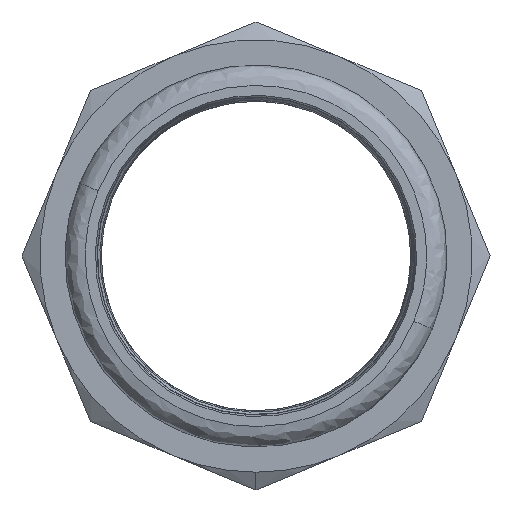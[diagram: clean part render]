
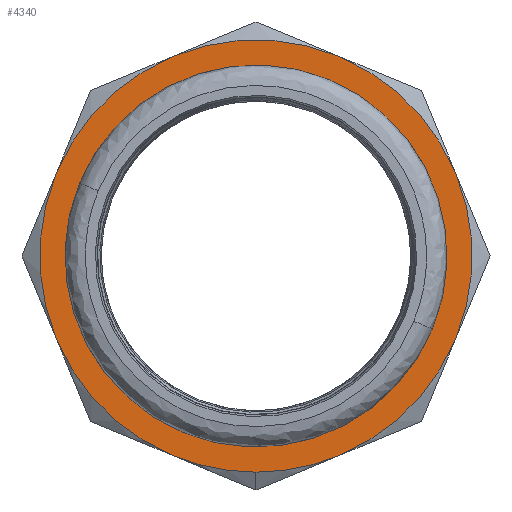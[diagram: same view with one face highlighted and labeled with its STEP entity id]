
A CAD part, left-side view. The second image highlights one B-rep face of the part: STEP entity #4340.
In plain terms, the highlighted planar face has unit normal (-1, 0, 0) as drawn and (0, 1, 0) by its records, which use the part's own axes.
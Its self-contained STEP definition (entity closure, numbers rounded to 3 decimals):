
#30 = CARTESIAN_POINT ( 'NONE',  ( 0., 23., 0. ) ) ;
#55 = CIRCLE ( 'NONE', #118, 37. ) ;
#99 = CIRCLE ( 'NONE', #185, 29.15 ) ;
#114 = DIRECTION ( 'NONE',  ( 0., 1., 0. ) ) ;
#118 = AXIS2_PLACEMENT_3D ( 'NONE', #1379, #3871, #2622 ) ;
#139 = ORIENTED_EDGE ( 'NONE', *, *, #4843, .T. ) ;
#153 = AXIS2_PLACEMENT_3D ( 'NONE', #1722, #114, #3423 ) ;
#185 = AXIS2_PLACEMENT_3D ( 'NONE', #4739, #2690, #2727 ) ;
#232 = DIRECTION ( 'NONE',  ( 0., 1., 0. ) ) ;
#259 = VERTEX_POINT ( 'NONE', #3439 ) ;
#303 = EDGE_CURVE ( 'NONE', #1239, #2758, #1165, .T. ) ;
#338 = FACE_BOUND ( 'NONE', #4903, .T. ) ;
#425 = ORIENTED_EDGE ( 'NONE', *, *, #4000, .T. ) ;
#527 = DIRECTION ( 'NONE',  ( 0., 0., -1. ) ) ;
#642 = CARTESIAN_POINT ( 'NONE',  ( -34.184, 23., -14.159 ) ) ;
#648 = EDGE_CURVE ( 'NONE', #3588, #5007, #3200, .T. ) ;
#679 = CIRCLE ( 'NONE', #969, 37. ) ;
#729 = CARTESIAN_POINT ( 'NONE',  ( 34.184, 23., -14.159 ) ) ;
#837 = CARTESIAN_POINT ( 'NONE',  ( -14.159, 23., -34.184 ) ) ;
#857 = DIRECTION ( 'NONE',  ( 0., 1., 0. ) ) ;
#859 = ORIENTED_EDGE ( 'NONE', *, *, #648, .T. ) ;
#927 = CARTESIAN_POINT ( 'NONE',  ( 0., 23., 0. ) ) ;
#948 = AXIS2_PLACEMENT_3D ( 'NONE', #30, #857, #3725 ) ;
#969 = AXIS2_PLACEMENT_3D ( 'NONE', #3499, #4285, #3118 ) ;
#1043 = EDGE_CURVE ( 'NONE', #2758, #2419, #55, .T. ) ;
#1093 = AXIS2_PLACEMENT_3D ( 'NONE', #927, #1273, #2947 ) ;
#1165 = CIRCLE ( 'NONE', #4384, 37. ) ;
#1181 = DIRECTION ( 'NONE',  ( 1., 0., 0. ) ) ;
#1189 = ORIENTED_EDGE ( 'NONE', *, *, #2739, .T. ) ;
#1220 = ORIENTED_EDGE ( 'NONE', *, *, #303, .T. ) ;
#1239 = VERTEX_POINT ( 'NONE', #837 ) ;
#1243 = DIRECTION ( 'NONE',  ( 0., 1., 0. ) ) ;
#1273 = DIRECTION ( 'NONE',  ( 0., 1., 0. ) ) ;
#1312 = CARTESIAN_POINT ( 'NONE',  ( 0., 23., -29.15 ) ) ;
#1367 = EDGE_CURVE ( 'NONE', #2867, #3588, #3523, .T. ) ;
#1379 = CARTESIAN_POINT ( 'NONE',  ( 0., 23., 0. ) ) ;
#1406 = ORIENTED_EDGE ( 'NONE', *, *, #1367, .T. ) ;
#1443 = DIRECTION ( 'NONE',  ( 0., 0., -1. ) ) ;
#1444 = PLANE ( 'NONE',  #4185 ) ;
#1507 = VERTEX_POINT ( 'NONE', #3047 ) ;
#1651 = CARTESIAN_POINT ( 'NONE',  ( 0., 23., 0. ) ) ;
#1722 = CARTESIAN_POINT ( 'NONE',  ( 0., 23., 0. ) ) ;
#1734 = CARTESIAN_POINT ( 'NONE',  ( 14.159, 23., -34.184 ) ) ;
#1774 = VERTEX_POINT ( 'NONE', #1312 ) ;
#1827 = CARTESIAN_POINT ( 'NONE',  ( -34.184, 23., 14.159 ) ) ;
#2020 = VERTEX_POINT ( 'NONE', #2203 ) ;
#2155 = VERTEX_POINT ( 'NONE', #4829 ) ;
#2167 = ORIENTED_EDGE ( 'NONE', *, *, #1043, .T. ) ;
#2192 = CARTESIAN_POINT ( 'NONE',  ( 0., 23., 0. ) ) ;
#2203 = CARTESIAN_POINT ( 'NONE',  ( 14.159, 23., 34.184 ) ) ;
#2245 = CARTESIAN_POINT ( 'NONE',  ( 0., 23., 0. ) ) ;
#2246 = CARTESIAN_POINT ( 'NONE',  ( 0., 23., 0. ) ) ;
#2354 = EDGE_CURVE ( 'NONE', #2020, #2867, #679, .T. ) ;
#2364 = CARTESIAN_POINT ( 'NONE',  ( 34.184, 23., 14.159 ) ) ;
#2419 = VERTEX_POINT ( 'NONE', #1827 ) ;
#2485 = EDGE_CURVE ( 'NONE', #2155, #2020, #2665, .T. ) ;
#2599 = CIRCLE ( 'NONE', #3123, 37. ) ;
#2622 = DIRECTION ( 'NONE',  ( 0., 0., -1. ) ) ;
#2653 = DIRECTION ( 'NONE',  ( 0., 1., 0. ) ) ;
#2665 = CIRCLE ( 'NONE', #153, 37. ) ;
#2690 = DIRECTION ( 'NONE',  ( 0., -1., 0. ) ) ;
#2727 = DIRECTION ( 'NONE',  ( 0., 0., 1. ) ) ;
#2739 = EDGE_CURVE ( 'NONE', #259, #1239, #2599, .T. ) ;
#2758 = VERTEX_POINT ( 'NONE', #642 ) ;
#2798 = AXIS2_PLACEMENT_3D ( 'NONE', #3813, #2994, #527 ) ;
#2841 = CARTESIAN_POINT ( 'NONE',  ( 0., 23., 0. ) ) ;
#2867 = VERTEX_POINT ( 'NONE', #2364 ) ;
#2947 = DIRECTION ( 'NONE',  ( 0., 0., -1. ) ) ;
#2983 = DIRECTION ( 'NONE',  ( 0., 1., 0. ) ) ;
#2994 = DIRECTION ( 'NONE',  ( 0., 1., 0. ) ) ;
#3006 = DIRECTION ( 'NONE',  ( 0., 0., -1. ) ) ;
#3047 = CARTESIAN_POINT ( 'NONE',  ( 0., 23., 29.15 ) ) ;
#3118 = DIRECTION ( 'NONE',  ( 0., 0., -1. ) ) ;
#3123 = AXIS2_PLACEMENT_3D ( 'NONE', #2245, #2653, #1443 ) ;
#3150 = ORIENTED_EDGE ( 'NONE', *, *, #2354, .T. ) ;
#3200 = CIRCLE ( 'NONE', #4656, 37. ) ;
#3209 = AXIS2_PLACEMENT_3D ( 'NONE', #1651, #4178, #4580 ) ;
#3347 = ORIENTED_EDGE ( 'NONE', *, *, #2485, .T. ) ;
#3423 = DIRECTION ( 'NONE',  ( 0., 0., -1. ) ) ;
#3439 = CARTESIAN_POINT ( 'NONE',  ( 0., 23., -37. ) ) ;
#3499 = CARTESIAN_POINT ( 'NONE',  ( 0., 23., 0. ) ) ;
#3523 = CIRCLE ( 'NONE', #1093, 37. ) ;
#3588 = VERTEX_POINT ( 'NONE', #729 ) ;
#3725 = DIRECTION ( 'NONE',  ( 0., 0., -1. ) ) ;
#3735 = EDGE_LOOP ( 'NONE', ( #1406, #859, #4262, #1189, #1220, #2167, #139, #3347, #3150 ) ) ;
#3798 = DIRECTION ( 'NONE',  ( 0., 0., 1. ) ) ;
#3813 = CARTESIAN_POINT ( 'NONE',  ( 0., 23., 0. ) ) ;
#3871 = DIRECTION ( 'NONE',  ( 0., 1., 0. ) ) ;
#4000 = EDGE_CURVE ( 'NONE', #1774, #1507, #99, .T. ) ;
#4178 = DIRECTION ( 'NONE',  ( 0., -1., 0. ) ) ;
#4185 = AXIS2_PLACEMENT_3D ( 'NONE', #2246, #232, #3798 ) ;
#4199 = EDGE_CURVE ( 'NONE', #1507, #1774, #4325, .T. ) ;
#4262 = ORIENTED_EDGE ( 'NONE', *, *, #4345, .T. ) ;
#4285 = DIRECTION ( 'NONE',  ( 0., 1., 0. ) ) ;
#4325 = CIRCLE ( 'NONE', #3209, 29.15 ) ;
#4340 = ADVANCED_FACE ( 'NONE', ( #5162, #338 ), #1444, .T. ) ;
#4345 = EDGE_CURVE ( 'NONE', #5007, #259, #4846, .T. ) ;
#4384 = AXIS2_PLACEMENT_3D ( 'NONE', #2192, #2983, #3006 ) ;
#4579 = CIRCLE ( 'NONE', #948, 37. ) ;
#4580 = DIRECTION ( 'NONE',  ( 0., 0., 1. ) ) ;
#4656 = AXIS2_PLACEMENT_3D ( 'NONE', #2841, #1243, #1181 ) ;
#4739 = CARTESIAN_POINT ( 'NONE',  ( 0., 23., 0. ) ) ;
#4829 = CARTESIAN_POINT ( 'NONE',  ( -14.159, 23., 34.184 ) ) ;
#4843 = EDGE_CURVE ( 'NONE', #2419, #2155, #4579, .T. ) ;
#4846 = CIRCLE ( 'NONE', #2798, 37. ) ;
#4903 = EDGE_LOOP ( 'NONE', ( #5161, #425 ) ) ;
#5007 = VERTEX_POINT ( 'NONE', #1734 ) ;
#5161 = ORIENTED_EDGE ( 'NONE', *, *, #4199, .T. ) ;
#5162 = FACE_OUTER_BOUND ( 'NONE', #3735, .T. ) ;
